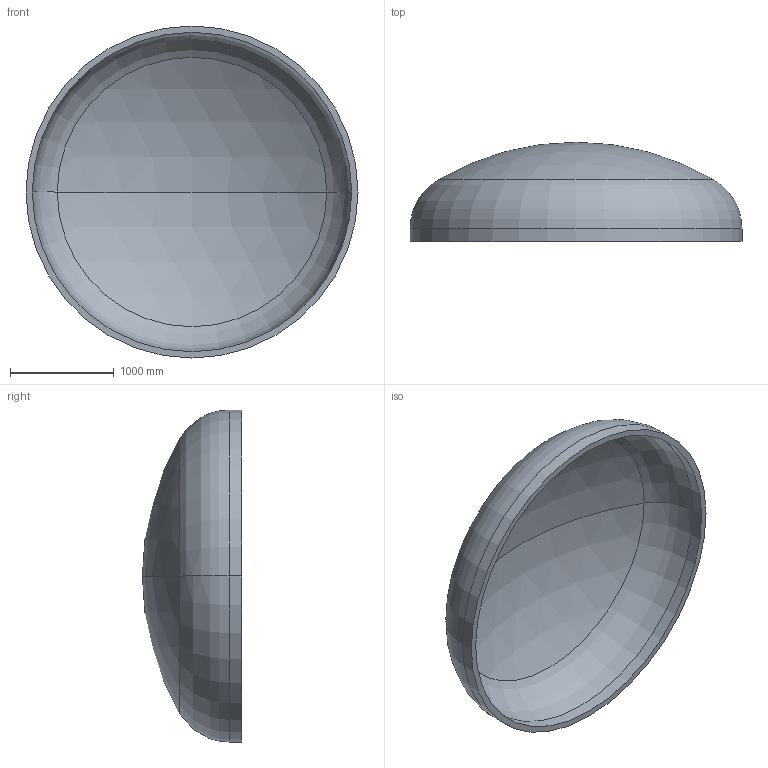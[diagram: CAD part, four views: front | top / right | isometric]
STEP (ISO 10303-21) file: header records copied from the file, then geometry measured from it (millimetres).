
FILE_DESCRIPTION (( 'STEP AP203' ), '1' );
FILE_NAME ('DIN 28013 Korbbogenform_-_Boden DIN 28013 - 3200 x 120 - I - s=60.step', '2016-07-01T18:45:46', ( '' ), ( '' ), 'SwSTEP 2.0', 'SolidWorks 2013', '' );
FILE_SCHEMA (( 'CONFIG_CONTROL_DESIGN' ));
Length unit declared in the file: millimetre
Products named in the file (1): DIN 28013 Korbbogenform_-_Boden DIN 28013 - 3200 x 120 - I - s=60
Bounding box: 3200 x 956.07 x 3200 mm (x, y, z)
Volume: 722304584.6 mm3; surface area: 24676227 mm2
Topology: 1 solids, 1 shells, 13 faces, 24 edges, 14 vertices
Faces by surface type: torus 4, cylinder 4, sphere 4, plane 1
Entity records: 407 total; most frequent: DIRECTION 72, CARTESIAN_POINT 52, ORIENTED_EDGE 48, AXIS2_PLACEMENT_3D 34, EDGE_CURVE 24, CIRCLE 20, EDGE_LOOP 14, VERTEX_POINT 14
